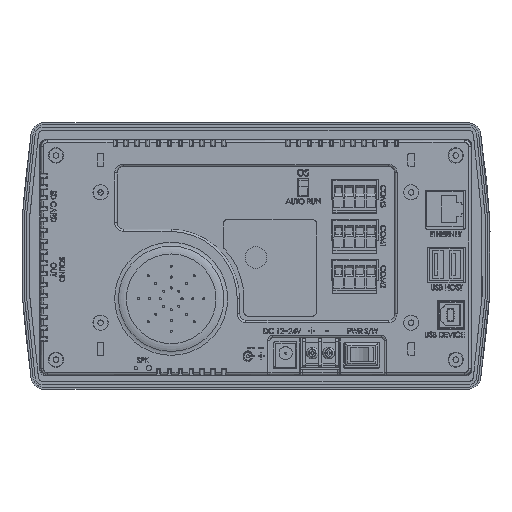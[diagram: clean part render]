
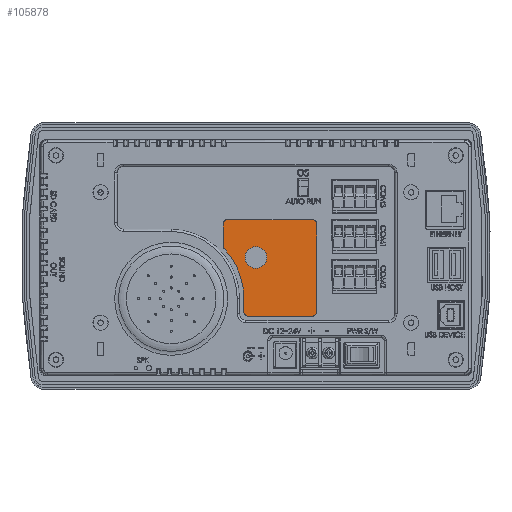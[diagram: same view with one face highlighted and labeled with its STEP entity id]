
A CAD part, top view. The second image highlights one B-rep face of the part: STEP entity #105878.
In plain terms, the highlighted planar face has unit normal (0, 0, 1).
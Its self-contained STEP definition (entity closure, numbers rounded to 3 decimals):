
#598 = FACE_BOUND ( 'NONE', #10035, .T. ) ;
#1419 = CARTESIAN_POINT ( 'NONE',  ( -14.995, 14.74, 31.7 ) ) ;
#2645 = CIRCLE ( 'NONE', #102904, 34.075 ) ;
#2874 = CARTESIAN_POINT ( 'NONE',  ( -3.51, -27.749, 31.7 ) ) ;
#4029 = LINE ( 'NONE', #31760, #8249 ) ;
#7381 = DIRECTION ( 'NONE',  ( 0., 0., 1. ) ) ;
#7509 = VERTEX_POINT ( 'NONE', #25556 ) ;
#8249 = VECTOR ( 'NONE', #22351, 1000. ) ;
#9862 =( BOUNDED_CURVE ( )  B_SPLINE_CURVE ( 3, ( #35085, #15607, #54563, #121014 ),
 .UNSPECIFIED., .F., .F. ) 
 B_SPLINE_CURVE_WITH_KNOTS ( ( 4, 4 ),
 ( 2.356, 3.927 ),
 .UNSPECIFIED. ) 
 CURVE ( )  GEOMETRIC_REPRESENTATION_ITEM ( )  RATIONAL_B_SPLINE_CURVE ( ( 1., 0.805, 0.805, 1. ) ) 
 REPRESENTATION_ITEM ( '' )  );
#10035 = EDGE_LOOP ( 'NONE', ( #25537 ) ) ;
#11849 =( BOUNDED_CURVE ( )  B_SPLINE_CURVE ( 3, ( #95877, #67103, #116003, #48945 ),
 .UNSPECIFIED., .F., .F. ) 
 B_SPLINE_CURVE_WITH_KNOTS ( ( 4, 4 ),
 ( 2.356, 3.927 ),
 .UNSPECIFIED. ) 
 CURVE ( )  GEOMETRIC_REPRESENTATION_ITEM ( )  RATIONAL_B_SPLINE_CURVE ( ( 1., 0.805, 0.805, 1. ) ) 
 REPRESENTATION_ITEM ( '' )  );
#11962 = FACE_OUTER_BOUND ( 'NONE', #59213, .T. ) ;
#12594 = ORIENTED_EDGE ( 'NONE', *, *, #64551, .T. ) ;
#14350 = CARTESIAN_POINT ( 'NONE',  ( -14.995, 4.375, 31.7 ) ) ;
#15607 = CARTESIAN_POINT ( 'NONE',  ( 27.995, 15.912, 31.7 ) ) ;
#17037 = AXIS2_PLACEMENT_3D ( 'NONE', #46389, #7381, #63953 ) ;
#18359 = CARTESIAN_POINT ( 'NONE',  ( -5.51, -19.755, 31.7 ) ) ;
#19597 = DIRECTION ( 'NONE',  ( 0., -1., 0. ) ) ;
#20815 = LINE ( 'NONE', #59087, #119203 ) ;
#20973 = EDGE_CURVE ( 'NONE', #45127, #110111, #11849, .T. ) ;
#21698 = EDGE_CURVE ( 'NONE', #7509, #49466, #79971, .T. ) ;
#22115 = ORIENTED_EDGE ( 'NONE', *, *, #21698, .T. ) ;
#22351 = DIRECTION ( 'NONE',  ( 0., -1., 0. ) ) ;
#22663 = DIRECTION ( 'NONE',  ( 0., 0., 1. ) ) ;
#23829 = CARTESIAN_POINT ( 'NONE',  ( -14.469, 3.273, 31.7 ) ) ;
#24430 = CARTESIAN_POINT ( 'NONE',  ( -14.768, 3.667, 31.7 ) ) ;
#25537 = ORIENTED_EDGE ( 'NONE', *, *, #34201, .F. ) ;
#25556 = CARTESIAN_POINT ( 'NONE',  ( -12.995, 16.74, 31.7 ) ) ;
#27073 = CARTESIAN_POINT ( 'NONE',  ( -5.51, -26.921, 31.7 ) ) ;
#28157 = VERTEX_POINT ( 'NONE', #100837 ) ;
#31760 = CARTESIAN_POINT ( 'NONE',  ( -14.995, -19.755, 31.7 ) ) ;
#31947 = EDGE_CURVE ( 'NONE', #49466, #28157, #4029, .T. ) ;
#32017 = CARTESIAN_POINT ( 'NONE',  ( -39.585, 16.74, 31.7 ) ) ;
#32131 = VERTEX_POINT ( 'NONE', #41053 ) ;
#33212 = CARTESIAN_POINT ( 'NONE',  ( -14.949, 4.133, 31.7 ) ) ;
#34201 = EDGE_CURVE ( 'NONE', #65085, #65085, #103110, .T. ) ;
#34956 = ORIENTED_EDGE ( 'NONE', *, *, #81898, .T. ) ;
#35085 = CARTESIAN_POINT ( 'NONE',  ( 27.995, 14.74, 31.7 ) ) ;
#35479 = VECTOR ( 'NONE', #103352, 1000. ) ;
#35765 = VERTEX_POINT ( 'NONE', #38752 ) ;
#38752 = CARTESIAN_POINT ( 'NONE',  ( -14.469, 3.273, 31.7 ) ) ;
#39028 = PLANE ( 'NONE',  #121037 ) ;
#39827 = ORIENTED_EDGE ( 'NONE', *, *, #113738, .T. ) ;
#41053 = CARTESIAN_POINT ( 'NONE',  ( -5.51, -19.755, 31.7 ) ) ;
#45127 = VERTEX_POINT ( 'NONE', #93243 ) ;
#46033 = LINE ( 'NONE', #18359, #104460 ) ;
#46389 = CARTESIAN_POINT ( 'NONE',  ( 0., -0.76, 31.7 ) ) ;
#47402 = ORIENTED_EDGE ( 'NONE', *, *, #59135, .T. ) ;
#48945 = CARTESIAN_POINT ( 'NONE',  ( 27.995, -25.75, 31.7 ) ) ;
#49466 = VERTEX_POINT ( 'NONE', #91116 ) ;
#50993 =( BOUNDED_CURVE ( )  B_SPLINE_CURVE ( 3, ( #101690, #27073, #123066, #65388 ),
 .UNSPECIFIED., .F., .F. ) 
 B_SPLINE_CURVE_WITH_KNOTS ( ( 4, 4 ),
 ( 2.356, 3.927 ),
 .UNSPECIFIED. ) 
 CURVE ( )  GEOMETRIC_REPRESENTATION_ITEM ( )  RATIONAL_B_SPLINE_CURVE ( ( 1., 0.805, 0.805, 1. ) ) 
 REPRESENTATION_ITEM ( '' )  );
#51466 = VERTEX_POINT ( 'NONE', #55517 ) ;
#52191 = DIRECTION ( 'NONE',  ( 1., 0., 0. ) ) ;
#53394 = ORIENTED_EDGE ( 'NONE', *, *, #109404, .T. ) ;
#53813 = DIRECTION ( 'NONE',  ( 1., 0., 0. ) ) ;
#54563 = CARTESIAN_POINT ( 'NONE',  ( 27.167, 16.74, 31.7 ) ) ;
#55517 = CARTESIAN_POINT ( 'NONE',  ( -5.51, -25.75, 31.7 ) ) ;
#57041 = CARTESIAN_POINT ( 'NONE',  ( -39.585, -27.749, 31.7 ) ) ;
#58022 = ORIENTED_EDGE ( 'NONE', *, *, #116355, .T. ) ;
#59087 = CARTESIAN_POINT ( 'NONE',  ( 27.995, -19.755, 31.7 ) ) ;
#59135 = EDGE_CURVE ( 'NONE', #28157, #35765, #117911, .T. ) ;
#59213 = EDGE_LOOP ( 'NONE', ( #90712, #67014, #12594, #34956, #53394, #22115, #88834, #47402, #58022, #77560, #39827 ) ) ;
#63953 = DIRECTION ( 'NONE',  ( 1., 0., 0. ) ) ;
#64429 = CARTESIAN_POINT ( 'NONE',  ( -39.585, -19.755, 31.7 ) ) ;
#64551 = EDGE_CURVE ( 'NONE', #110111, #100753, #20815, .T. ) ;
#65085 = VERTEX_POINT ( 'NONE', #74372 ) ;
#65388 = CARTESIAN_POINT ( 'NONE',  ( -3.51, -27.749, 31.7 ) ) ;
#65843 = EDGE_CURVE ( 'NONE', #108699, #45127, #114651, .T. ) ;
#67014 = ORIENTED_EDGE ( 'NONE', *, *, #20973, .T. ) ;
#67103 = CARTESIAN_POINT ( 'NONE',  ( 27.167, -27.749, 31.7 ) ) ;
#69514 = VECTOR ( 'NONE', #80835, 1000. ) ;
#74085 = CARTESIAN_POINT ( 'NONE',  ( 27.995, -25.75, 31.7 ) ) ;
#74372 = CARTESIAN_POINT ( 'NONE',  ( 5., -0.76, 31.7 ) ) ;
#77560 = ORIENTED_EDGE ( 'NONE', *, *, #82701, .T. ) ;
#79971 =( BOUNDED_CURVE ( )  B_SPLINE_CURVE ( 3, ( #123920, #115077, #86179, #1419 ),
 .UNSPECIFIED., .F., .F. ) 
 B_SPLINE_CURVE_WITH_KNOTS ( ( 4, 4 ),
 ( 2.356, 3.927 ),
 .UNSPECIFIED. ) 
 CURVE ( )  GEOMETRIC_REPRESENTATION_ITEM ( )  RATIONAL_B_SPLINE_CURVE ( ( 1., 0.805, 0.805, 1. ) ) 
 REPRESENTATION_ITEM ( '' )  );
#80608 = VERTEX_POINT ( 'NONE', #107990 ) ;
#80835 = DIRECTION ( 'NONE',  ( -1., 0., 0. ) ) ;
#81898 = EDGE_CURVE ( 'NONE', #100753, #80608, #9862, .T. ) ;
#82047 = CARTESIAN_POINT ( 'NONE',  ( -14.995, 4.625, 31.7 ) ) ;
#82701 = EDGE_CURVE ( 'NONE', #32131, #51466, #46033, .T. ) ;
#83733 = DIRECTION ( 'NONE',  ( 0., 0., -1. ) ) ;
#86179 = CARTESIAN_POINT ( 'NONE',  ( -14.995, 15.912, 31.7 ) ) ;
#88834 = ORIENTED_EDGE ( 'NONE', *, *, #31947, .T. ) ;
#89015 = DIRECTION ( 'NONE',  ( 0., 1., 0. ) ) ;
#90712 = ORIENTED_EDGE ( 'NONE', *, *, #65843, .T. ) ;
#91116 = CARTESIAN_POINT ( 'NONE',  ( -14.995, 14.74, 31.7 ) ) ;
#93243 = CARTESIAN_POINT ( 'NONE',  ( 25.995, -27.749, 31.7 ) ) ;
#95877 = CARTESIAN_POINT ( 'NONE',  ( 25.995, -27.749, 31.7 ) ) ;
#98483 = CARTESIAN_POINT ( 'NONE',  ( -39.585, -19.755, 31.7 ) ) ;
#99059 = LINE ( 'NONE', #32017, #69514 ) ;
#100753 = VERTEX_POINT ( 'NONE', #105955 ) ;
#100837 = CARTESIAN_POINT ( 'NONE',  ( -14.995, 4.625, 31.7 ) ) ;
#101690 = CARTESIAN_POINT ( 'NONE',  ( -5.51, -25.75, 31.7 ) ) ;
#102904 = AXIS2_PLACEMENT_3D ( 'NONE', #64429, #83733, #53813 ) ;
#103110 = CIRCLE ( 'NONE', #17037, 5. ) ;
#103352 = DIRECTION ( 'NONE',  ( 1., 0., 0. ) ) ;
#104460 = VECTOR ( 'NONE', #19597, 1000. ) ;
#105878 = ADVANCED_FACE ( 'NONE', ( #598, #11962 ), #39028, .T. ) ;
#105955 = CARTESIAN_POINT ( 'NONE',  ( 27.995, 14.74, 31.7 ) ) ;
#107990 = CARTESIAN_POINT ( 'NONE',  ( 25.995, 16.74, 31.7 ) ) ;
#108699 = VERTEX_POINT ( 'NONE', #2874 ) ;
#109404 = EDGE_CURVE ( 'NONE', #80608, #7509, #99059, .T. ) ;
#110111 = VERTEX_POINT ( 'NONE', #74085 ) ;
#113738 = EDGE_CURVE ( 'NONE', #51466, #108699, #50993, .T. ) ;
#114651 = LINE ( 'NONE', #57041, #35479 ) ;
#115077 = CARTESIAN_POINT ( 'NONE',  ( -14.167, 16.74, 31.7 ) ) ;
#116003 = CARTESIAN_POINT ( 'NONE',  ( 27.995, -26.921, 31.7 ) ) ;
#116355 = EDGE_CURVE ( 'NONE', #35765, #32131, #2645, .T. ) ;
#117911 = B_SPLINE_CURVE_WITH_KNOTS ( 'NONE', 3,
 ( #82047, #14350, #33212, #24430, #120385, #23829 ),
 .UNSPECIFIED., .F., .F.,
 ( 4, 2, 4 ),
 ( 0., 0.001, 0.001 ),
 .UNSPECIFIED. ) ;
#119203 = VECTOR ( 'NONE', #89015, 1000. ) ;
#120385 = CARTESIAN_POINT ( 'NONE',  ( -14.638, 3.458, 31.7 ) ) ;
#121014 = CARTESIAN_POINT ( 'NONE',  ( 25.995, 16.74, 31.7 ) ) ;
#121037 = AXIS2_PLACEMENT_3D ( 'NONE', #98483, #22663, #52191 ) ;
#123066 = CARTESIAN_POINT ( 'NONE',  ( -4.682, -27.749, 31.7 ) ) ;
#123920 = CARTESIAN_POINT ( 'NONE',  ( -12.995, 16.74, 31.7 ) ) ;
